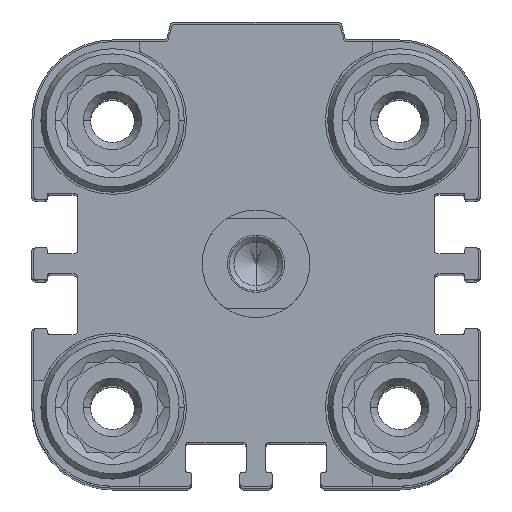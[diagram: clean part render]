
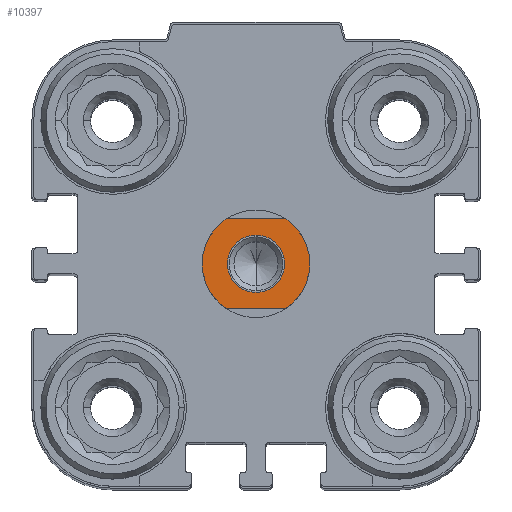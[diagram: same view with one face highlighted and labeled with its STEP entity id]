
A CAD part, top view. The second image highlights one B-rep face of the part: STEP entity #10397.
In plain terms, the highlighted planar face has unit normal (0, 0, 1).
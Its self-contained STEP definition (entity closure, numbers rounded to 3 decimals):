
#585 = FACE_OUTER_BOUND ( 'NONE', #20793, .T. ) ;
#712 = VERTEX_POINT ( 'NONE', #21639 ) ;
#854 = VERTEX_POINT ( 'NONE', #3007 ) ;
#912 = ORIENTED_EDGE ( 'NONE', *, *, #21435, .F. ) ;
#1353 = CARTESIAN_POINT ( 'NONE',  ( 10., -5., 6. ) ) ;
#1420 = EDGE_LOOP ( 'NONE', ( #3573, #20732 ) ) ;
#1599 = CARTESIAN_POINT ( 'NONE',  ( 3.317, -5., 6. ) ) ;
#1942 = DIRECTION ( 'NONE',  ( 0., 0., -1. ) ) ;
#2037 = VECTOR ( 'NONE', #8506, 1000. ) ;
#2319 = AXIS2_PLACEMENT_3D ( 'NONE', #21587, #13028, #6045 ) ;
#2547 = VERTEX_POINT ( 'NONE', #13236 ) ;
#2843 = CARTESIAN_POINT ( 'NONE',  ( 0., 0., 6. ) ) ;
#2982 = AXIS2_PLACEMENT_3D ( 'NONE', #9247, #14275, #19741 ) ;
#3007 = CARTESIAN_POINT ( 'NONE',  ( -3.317, -5., 6. ) ) ;
#3573 = ORIENTED_EDGE ( 'NONE', *, *, #12008, .T. ) ;
#3782 = AXIS2_PLACEMENT_3D ( 'NONE', #16355, #1942, #12814 ) ;
#4001 = VERTEX_POINT ( 'NONE', #20421 ) ;
#4429 = CIRCLE ( 'NONE', #5153, 6. ) ;
#4978 = ORIENTED_EDGE ( 'NONE', *, *, #19414, .F. ) ;
#5153 = AXIS2_PLACEMENT_3D ( 'NONE', #2843, #6388, #6606 ) ;
#5572 = VERTEX_POINT ( 'NONE', #8528 ) ;
#5720 = AXIS2_PLACEMENT_3D ( 'NONE', #8385, #13634, #20596 ) ;
#5922 = CARTESIAN_POINT ( 'NONE',  ( 6., 0., 6. ) ) ;
#6045 = DIRECTION ( 'NONE',  ( 0., 1., 0. ) ) ;
#6388 = DIRECTION ( 'NONE',  ( 0., 0., -1. ) ) ;
#6606 = DIRECTION ( 'NONE',  ( -1., 0., 0. ) ) ;
#7565 = PLANE ( 'NONE',  #22341 ) ;
#8385 = CARTESIAN_POINT ( 'NONE',  ( 0., 0., 6. ) ) ;
#8506 = DIRECTION ( 'NONE',  ( 1., 0., 0. ) ) ;
#8528 = CARTESIAN_POINT ( 'NONE',  ( 3.317, 5., 6. ) ) ;
#9006 = CIRCLE ( 'NONE', #5720, 6. ) ;
#9247 = CARTESIAN_POINT ( 'NONE',  ( 0., 0., 6. ) ) ;
#9292 = AXIS2_PLACEMENT_3D ( 'NONE', #20690, #18534, #13502 ) ;
#10397 = ADVANCED_FACE ( 'NONE', ( #585, #11332 ), #7565, .F. ) ;
#10741 = CIRCLE ( 'NONE', #9292, 6. ) ;
#10824 = VERTEX_POINT ( 'NONE', #5922 ) ;
#10840 = EDGE_CURVE ( 'NONE', #854, #2547, #15025, .T. ) ;
#10949 = EDGE_CURVE ( 'NONE', #10824, #20251, #4429, .T. ) ;
#11332 = FACE_BOUND ( 'NONE', #1420, .T. ) ;
#12008 = EDGE_CURVE ( 'NONE', #13629, #4001, #16939, .T. ) ;
#12713 = CARTESIAN_POINT ( 'NONE',  ( 0., 0., 6. ) ) ;
#12814 = DIRECTION ( 'NONE',  ( 0., 1., 0. ) ) ;
#13028 = DIRECTION ( 'NONE',  ( 0., 0., -1. ) ) ;
#13236 = CARTESIAN_POINT ( 'NONE',  ( -6., 0., 6. ) ) ;
#13470 = DIRECTION ( 'NONE',  ( -1., 0., 0. ) ) ;
#13502 = DIRECTION ( 'NONE',  ( -1., 0., 0. ) ) ;
#13629 = VERTEX_POINT ( 'NONE', #19838 ) ;
#13634 = DIRECTION ( 'NONE',  ( 0., 0., -1. ) ) ;
#13665 = CIRCLE ( 'NONE', #3782, 3.2 ) ;
#13761 = LINE ( 'NONE', #17184, #2037 ) ;
#14275 = DIRECTION ( 'NONE',  ( 0., 0., -1. ) ) ;
#14763 = DIRECTION ( 'NONE',  ( 0., 0., -1. ) ) ;
#15025 = CIRCLE ( 'NONE', #2982, 6. ) ;
#15301 = LINE ( 'NONE', #1353, #20554 ) ;
#15958 = ORIENTED_EDGE ( 'NONE', *, *, #10949, .F. ) ;
#16164 = EDGE_CURVE ( 'NONE', #2547, #712, #9006, .T. ) ;
#16355 = CARTESIAN_POINT ( 'NONE',  ( 0., 0., 6. ) ) ;
#16467 = DIRECTION ( 'NONE',  ( 0., 1., 0. ) ) ;
#16939 = CIRCLE ( 'NONE', #2319, 3.2 ) ;
#17112 = ORIENTED_EDGE ( 'NONE', *, *, #16164, .F. ) ;
#17184 = CARTESIAN_POINT ( 'NONE',  ( -10., 5., 6. ) ) ;
#17782 = EDGE_CURVE ( 'NONE', #5572, #10824, #10741, .T. ) ;
#18534 = DIRECTION ( 'NONE',  ( 0., 0., -1. ) ) ;
#18796 = EDGE_CURVE ( 'NONE', #4001, #13629, #13665, .T. ) ;
#19414 = EDGE_CURVE ( 'NONE', #20251, #854, #15301, .T. ) ;
#19741 = DIRECTION ( 'NONE',  ( -1., 0., 0. ) ) ;
#19838 = CARTESIAN_POINT ( 'NONE',  ( 0., 3.2, 6. ) ) ;
#20251 = VERTEX_POINT ( 'NONE', #1599 ) ;
#20421 = CARTESIAN_POINT ( 'NONE',  ( 0., -3.2, 6. ) ) ;
#20554 = VECTOR ( 'NONE', #13470, 1000. ) ;
#20596 = DIRECTION ( 'NONE',  ( -1., 0., 0. ) ) ;
#20690 = CARTESIAN_POINT ( 'NONE',  ( 0., 0., 6. ) ) ;
#20732 = ORIENTED_EDGE ( 'NONE', *, *, #18796, .T. ) ;
#20793 = EDGE_LOOP ( 'NONE', ( #912, #17112, #22172, #4978, #15958, #21515 ) ) ;
#21435 = EDGE_CURVE ( 'NONE', #712, #5572, #13761, .T. ) ;
#21515 = ORIENTED_EDGE ( 'NONE', *, *, #17782, .F. ) ;
#21587 = CARTESIAN_POINT ( 'NONE',  ( 0., 0., 6. ) ) ;
#21639 = CARTESIAN_POINT ( 'NONE',  ( -3.317, 5., 6. ) ) ;
#22172 = ORIENTED_EDGE ( 'NONE', *, *, #10840, .F. ) ;
#22341 = AXIS2_PLACEMENT_3D ( 'NONE', #12713, #14763, #16467 ) ;
